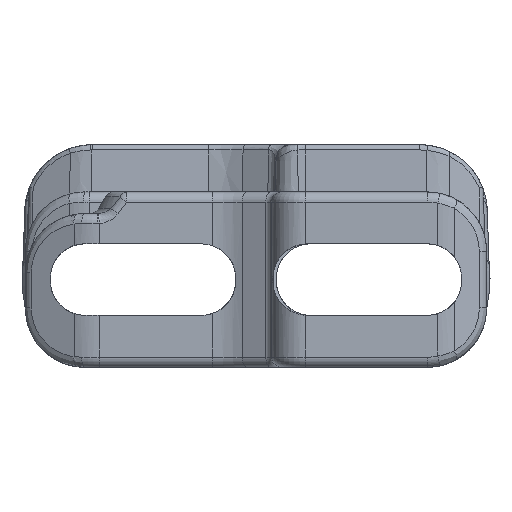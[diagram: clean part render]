
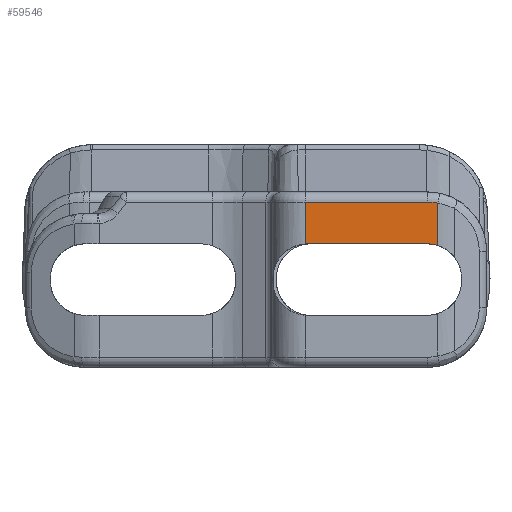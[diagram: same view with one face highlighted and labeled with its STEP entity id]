
A CAD part, left-side view. The second image highlights one B-rep face of the part: STEP entity #59546.
In plain terms, the highlighted planar face has unit normal (-1, 0, 0).
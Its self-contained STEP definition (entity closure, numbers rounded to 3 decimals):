
#13=CARTESIAN_POINT('',(-76.15,-3.8,0.1));
#14=DIRECTION('',(-1.,0.,0.));
#15=DIRECTION('',(0.,0.,1.));
#16=AXIS2_PLACEMENT_3D('',#13,#14,#15);
#18=DIRECTION('',(0.,0.,-1.));
#19=VECTOR('',#18,3.104);
#20=CARTESIAN_POINT('',(-76.15,-3.65,5.75));
#21=LINE('',#20,#19);
#22=DIRECTION('',(0.,1.,0.));
#23=VECTOR('',#22,9.05);
#24=CARTESIAN_POINT('',(-76.15,-12.7,5.75));
#25=LINE('',#24,#23);
#26=CARTESIAN_POINT('',(-76.15,-12.7,2.1));
#27=DIRECTION('',(-1.,0.,0.));
#28=DIRECTION('',(0.,-0.212,0.977));
#29=AXIS2_PLACEMENT_3D('',#26,#27,#28);
#31=DIRECTION('',(0.,0.,1.));
#32=VECTOR('',#31,3.137);
#33=CARTESIAN_POINT('',(-76.15,-13.475,2.529));
#34=LINE('',#33,#32);
#35=CARTESIAN_POINT('',(-76.15,-12.7,0.1));
#36=DIRECTION('',(1.,0.,0.));
#37=DIRECTION('',(0.,0.,1.));
#38=AXIS2_PLACEMENT_3D('',#35,#36,#37);
#123=DIRECTION('',(0.,-1.,0.));
#124=VECTOR('',#123,8.9);
#125=CARTESIAN_POINT('',(-76.15,-3.8,2.65));
#126=LINE('',#125,#124);
#261=CARTESIAN_POINT('',(-76.15,-13.475,5.667));
#53100=CARTESIAN_POINT('',(-76.15,-3.65,5.75));
#53102=VERTEX_POINT('',#53100);
#53198=VERTEX_POINT('',#261);
#53200=CARTESIAN_POINT('',(-76.15,-12.7,5.75));
#53201=VERTEX_POINT('',#53200);
#55312=CARTESIAN_POINT('',(-76.15,-12.7,2.65));
#55313=CARTESIAN_POINT('',(-76.15,-13.475,2.529));
#55314=VERTEX_POINT('',#55312);
#55315=VERTEX_POINT('',#55313);
#56497=CARTESIAN_POINT('',(-76.15,-3.8,2.65));
#56498=CARTESIAN_POINT('',(-76.15,-3.65,2.646));
#56499=VERTEX_POINT('',#56497);
#56500=VERTEX_POINT('',#56498);
#59525=CARTESIAN_POINT('',(-76.15,0.,0.));
#59526=DIRECTION('',(1.,0.,0.));
#59527=DIRECTION('',(0.,-1.,0.));
#59528=AXIS2_PLACEMENT_3D('',#59525,#59526,#59527);
#59529=PLANE('',#59528);
#59531=ORIENTED_EDGE('',*,*,#59530,.T.);
#59533=ORIENTED_EDGE('',*,*,#59532,.F.);
#59535=ORIENTED_EDGE('',*,*,#59534,.F.);
#59537=ORIENTED_EDGE('',*,*,#59536,.F.);
#59539=ORIENTED_EDGE('',*,*,#59538,.F.);
#59541=ORIENTED_EDGE('',*,*,#59540,.F.);
#59543=ORIENTED_EDGE('',*,*,#59542,.F.);
#59544=EDGE_LOOP('',(#59531,#59533,#59535,#59537,#59539,#59541,#59543));
#59545=FACE_OUTER_BOUND('',#59544,.F.);
#17=CIRCLE('',#16,2.55);
#30=CIRCLE('',#29,3.65);
#39=CIRCLE('',#38,2.55);
#59530=EDGE_CURVE('',#56499,#56500,#17,.T.);
#59532=EDGE_CURVE('',#53102,#56500,#21,.T.);
#59534=EDGE_CURVE('',#53201,#53102,#25,.T.);
#59536=EDGE_CURVE('',#53198,#53201,#30,.T.);
#59538=EDGE_CURVE('',#55315,#53198,#34,.T.);
#59540=EDGE_CURVE('',#55314,#55315,#39,.T.);
#59542=EDGE_CURVE('',#56499,#55314,#126,.T.);
#59546=ADVANCED_FACE('',(#59545),#59529,.F.);
